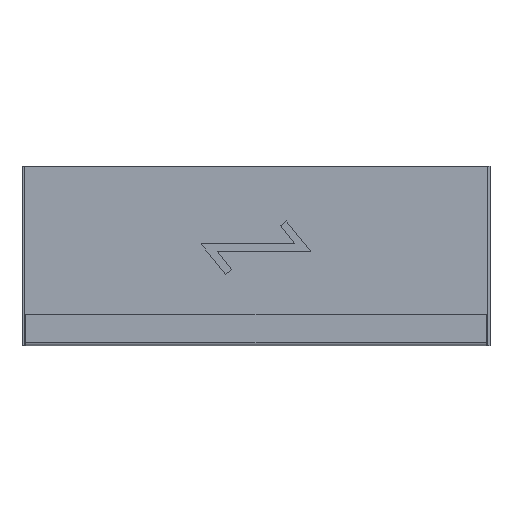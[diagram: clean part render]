
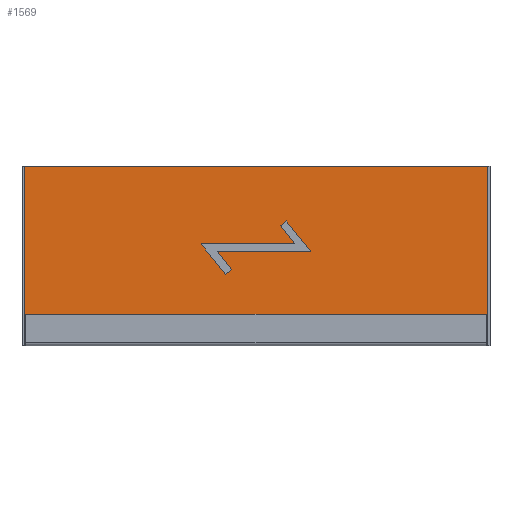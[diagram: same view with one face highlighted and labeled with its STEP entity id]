
A CAD part, top view. The second image highlights one B-rep face of the part: STEP entity #1569.
In plain terms, the highlighted planar face has unit normal (0, 0, 1) as drawn and (0, 1, 0) by its records, which use the part's own axes.
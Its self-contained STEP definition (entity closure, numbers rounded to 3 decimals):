
#7 = LINE ( 'NONE', #638, #345 ) ;
#12 = FACE_OUTER_BOUND ( 'NONE', #1515, .T. ) ;
#18 = DIRECTION ( 'NONE',  ( 0., 0., -1. ) ) ;
#43 = VERTEX_POINT ( 'NONE', #1034 ) ;
#83 = VERTEX_POINT ( 'NONE', #1643 ) ;
#114 = VERTEX_POINT ( 'NONE', #706 ) ;
#128 = VECTOR ( 'NONE', #1942, 1000. ) ;
#147 = EDGE_CURVE ( 'NONE', #1950, #441, #474, .T. ) ;
#178 = LINE ( 'NONE', #333, #484 ) ;
#200 = CARTESIAN_POINT ( 'NONE',  ( 104.5, 20., 297. ) ) ;
#217 = VECTOR ( 'NONE', #1555, 1000. ) ;
#225 = LINE ( 'NONE', #1143, #128 ) ;
#240 = VECTOR ( 'NONE', #924, 1000. ) ;
#242 = CARTESIAN_POINT ( 'NONE',  ( 3.125, 20., -56.097 ) ) ;
#292 = AXIS2_PLACEMENT_3D ( 'NONE', #643, #487, #1719 ) ;
#300 = ORIENTED_EDGE ( 'NONE', *, *, #829, .F. ) ;
#315 = PLANE ( 'NONE',  #292 ) ;
#333 = CARTESIAN_POINT ( 'NONE',  ( -34.35, 20., -38.903 ) ) ;
#337 = LINE ( 'NONE', #815, #708 ) ;
#345 = VECTOR ( 'NONE', #492, 1000. ) ;
#348 = VECTOR ( 'NONE', #367, 1000. ) ;
#350 = DIRECTION ( 'NONE',  ( -0.781, 0., 0.625 ) ) ;
#352 = CARTESIAN_POINT ( 'NONE',  ( 28.1, 20., 31.097 ) ) ;
#365 = EDGE_LOOP ( 'NONE', ( #372, #527, #1147, #300, #1384, #608, #1151, #899 ) ) ;
#367 = DIRECTION ( 'NONE',  ( -0.781, 0., 0.625 ) ) ;
#369 = ORIENTED_EDGE ( 'NONE', *, *, #395, .T. ) ;
#372 = ORIENTED_EDGE ( 'NONE', *, *, #1684, .T. ) ;
#395 = EDGE_CURVE ( 'NONE', #1242, #1001, #1266, .T. ) ;
#410 = EDGE_CURVE ( 'NONE', #1001, #83, #641, .T. ) ;
#426 = CARTESIAN_POINT ( 'NONE',  ( -104.5, 20., -297. ) ) ;
#436 = EDGE_CURVE ( 'NONE', #1618, #1242, #337, .T. ) ;
#441 = VERTEX_POINT ( 'NONE', #352 ) ;
#458 = VERTEX_POINT ( 'NONE', #676 ) ;
#474 = LINE ( 'NONE', #738, #240 ) ;
#484 = VECTOR ( 'NONE', #797, 1000. ) ;
#487 = DIRECTION ( 'NONE',  ( 0., -1., 0. ) ) ;
#492 = DIRECTION ( 'NONE',  ( -0.781, 0., 0.625 ) ) ;
#527 = ORIENTED_EDGE ( 'NONE', *, *, #1393, .F. ) ;
#585 = ORIENTED_EDGE ( 'NONE', *, *, #436, .T. ) ;
#593 = LINE ( 'NONE', #426, #1428 ) ;
#608 = ORIENTED_EDGE ( 'NONE', *, *, #147, .F. ) ;
#638 = CARTESIAN_POINT ( 'NONE',  ( -3.125, 20., -63.903 ) ) ;
#641 = LINE ( 'NONE', #200, #1624 ) ;
#643 = CARTESIAN_POINT ( 'NONE',  ( 0., 20., 0. ) ) ;
#658 = ORIENTED_EDGE ( 'NONE', *, *, #1840, .T. ) ;
#665 = VERTEX_POINT ( 'NONE', #1492 ) ;
#676 = CARTESIAN_POINT ( 'NONE',  ( -34.35, 20., -38.903 ) ) ;
#706 = CARTESIAN_POINT ( 'NONE',  ( -5., 20., -49.592 ) ) ;
#708 = VECTOR ( 'NONE', #959, 1000. ) ;
#738 = CARTESIAN_POINT ( 'NONE',  ( 34.35, 20., 38.903 ) ) ;
#797 = DIRECTION ( 'NONE',  ( 0.625, 0., 0.781 ) ) ;
#815 = CARTESIAN_POINT ( 'NONE',  ( -104.5, 20., 297. ) ) ;
#829 = EDGE_CURVE ( 'NONE', #1902, #665, #2008, .T. ) ;
#869 = EDGE_CURVE ( 'NONE', #665, #458, #7, .T. ) ;
#887 = DIRECTION ( 'NONE',  ( -1., 0., 0. ) ) ;
#899 = ORIENTED_EDGE ( 'NONE', *, *, #1987, .T. ) ;
#924 = DIRECTION ( 'NONE',  ( -0.625, 0., -0.781 ) ) ;
#939 = CARTESIAN_POINT ( 'NONE',  ( 104.5, 20., 297. ) ) ;
#947 = EDGE_CURVE ( 'NONE', #1950, #1060, #1444, .T. ) ;
#948 = LINE ( 'NONE', #1552, #1629 ) ;
#952 = DIRECTION ( 'NONE',  ( 1., 0., 0. ) ) ;
#959 = DIRECTION ( 'NONE',  ( 0., 0., 1. ) ) ;
#1000 = CARTESIAN_POINT ( 'NONE',  ( 34.35, 20., 38.903 ) ) ;
#1001 = VERTEX_POINT ( 'NONE', #939 ) ;
#1034 = CARTESIAN_POINT ( 'NONE',  ( -28.1, 20., -31.097 ) ) ;
#1060 = VERTEX_POINT ( 'NONE', #1454 ) ;
#1143 = CARTESIAN_POINT ( 'NONE',  ( -5., 20., -60. ) ) ;
#1147 = ORIENTED_EDGE ( 'NONE', *, *, #869, .F. ) ;
#1151 = ORIENTED_EDGE ( 'NONE', *, *, #947, .T. ) ;
#1177 = CARTESIAN_POINT ( 'NONE',  ( -104.5, 20., -297. ) ) ;
#1191 = CARTESIAN_POINT ( 'NONE',  ( -104.5, 20., 297. ) ) ;
#1242 = VERTEX_POINT ( 'NONE', #1191 ) ;
#1256 = CARTESIAN_POINT ( 'NONE',  ( -104.5, 20., 297. ) ) ;
#1258 = FACE_BOUND ( 'NONE', #365, .T. ) ;
#1266 = LINE ( 'NONE', #1256, #1856 ) ;
#1384 = ORIENTED_EDGE ( 'NONE', *, *, #1438, .F. ) ;
#1388 = CARTESIAN_POINT ( 'NONE',  ( 5., 20., -60. ) ) ;
#1393 = EDGE_CURVE ( 'NONE', #458, #43, #178, .T. ) ;
#1428 = VECTOR ( 'NONE', #887, 1000. ) ;
#1438 = EDGE_CURVE ( 'NONE', #441, #1902, #948, .T. ) ;
#1444 = LINE ( 'NONE', #1903, #1791 ) ;
#1454 = CARTESIAN_POINT ( 'NONE',  ( -5., 20., 70.408 ) ) ;
#1492 = CARTESIAN_POINT ( 'NONE',  ( 5., 20., -70.408 ) ) ;
#1515 = EDGE_LOOP ( 'NONE', ( #1970, #658, #585, #369 ) ) ;
#1552 = CARTESIAN_POINT ( 'NONE',  ( -3.125, 20., 56.097 ) ) ;
#1555 = DIRECTION ( 'NONE',  ( 0., 0., -1. ) ) ;
#1569 = ADVANCED_FACE ( 'NONE', ( #12, #1258 ), #315, .F. ) ;
#1618 = VERTEX_POINT ( 'NONE', #1177 ) ;
#1624 = VECTOR ( 'NONE', #18, 1000. ) ;
#1629 = VECTOR ( 'NONE', #1900, 1000. ) ;
#1643 = CARTESIAN_POINT ( 'NONE',  ( 104.5, 20., -297. ) ) ;
#1652 = CARTESIAN_POINT ( 'NONE',  ( 5., 20., 49.592 ) ) ;
#1684 = EDGE_CURVE ( 'NONE', #114, #43, #1935, .T. ) ;
#1719 = DIRECTION ( 'NONE',  ( 0., 0., -1. ) ) ;
#1791 = VECTOR ( 'NONE', #350, 1000. ) ;
#1840 = EDGE_CURVE ( 'NONE', #83, #1618, #593, .T. ) ;
#1856 = VECTOR ( 'NONE', #952, 1000. ) ;
#1900 = DIRECTION ( 'NONE',  ( -0.781, 0., 0.625 ) ) ;
#1902 = VERTEX_POINT ( 'NONE', #1652 ) ;
#1903 = CARTESIAN_POINT ( 'NONE',  ( 3.125, 20., 63.903 ) ) ;
#1935 = LINE ( 'NONE', #242, #348 ) ;
#1942 = DIRECTION ( 'NONE',  ( 0., 0., -1. ) ) ;
#1950 = VERTEX_POINT ( 'NONE', #1000 ) ;
#1970 = ORIENTED_EDGE ( 'NONE', *, *, #410, .T. ) ;
#1987 = EDGE_CURVE ( 'NONE', #1060, #114, #225, .T. ) ;
#2008 = LINE ( 'NONE', #1388, #217 ) ;
